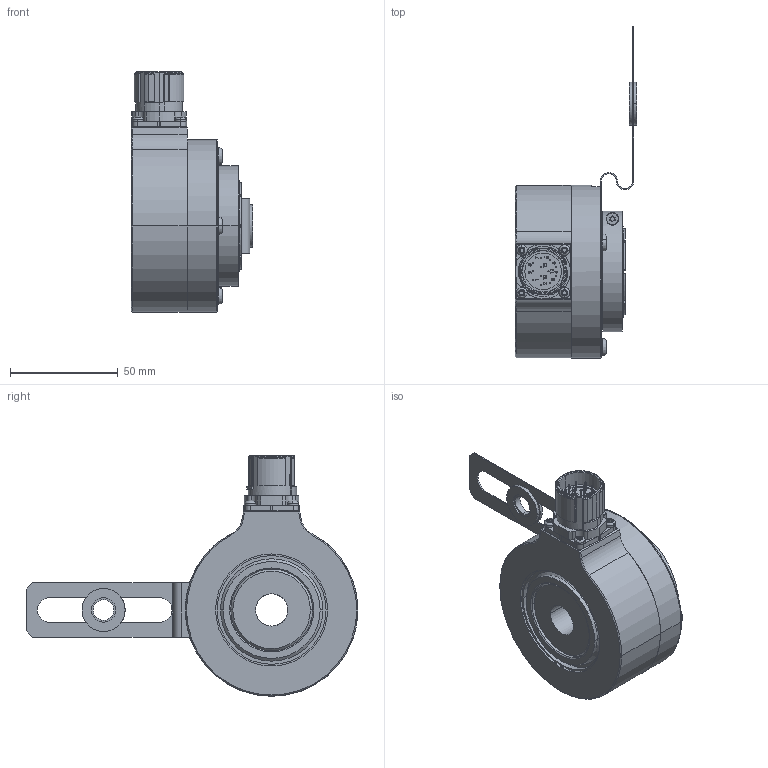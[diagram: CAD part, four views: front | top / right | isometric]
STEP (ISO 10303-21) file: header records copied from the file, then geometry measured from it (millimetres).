
FILE_DESCRIPTION (( 'STEP AP203' ), '1' );
FILE_NAME ('K80I.OXX.XXXXX.XH2D815.6XRC4.step', '2025-12-09T13:13:16', ( '' ), ( '' ), 'SwSTEP 2.0', 'SolidWorks 2021', '' );
FILE_SCHEMA (( 'CONFIG_CONTROL_DESIGN' ));
Length unit declared in the file: millimetre
Products named in the file (1): K80I.OXX.XXXXX.XH2D815.6XRC4
Bounding box: 56.5 x 154.07 x 111.67 mm (x, y, z)
Volume: 224563.3 mm3; surface area: 80378.6 mm2
Topology: 8 solids, 8 shells, 917 faces, 2408 edges, 1540 vertices
Faces by surface type: cylinder 389, plane 329, bspline 102, cone 43, sphere 34, torus 20
Entity records: 35313 total; most frequent: CARTESIAN_POINT 12768, ORIENTED_EDGE 4740, DIRECTION 4667, EDGE_CURVE 2370, AXIS2_PLACEMENT_3D 1764, VERTEX_POINT 1537, VECTOR 1139, LINE 1139
